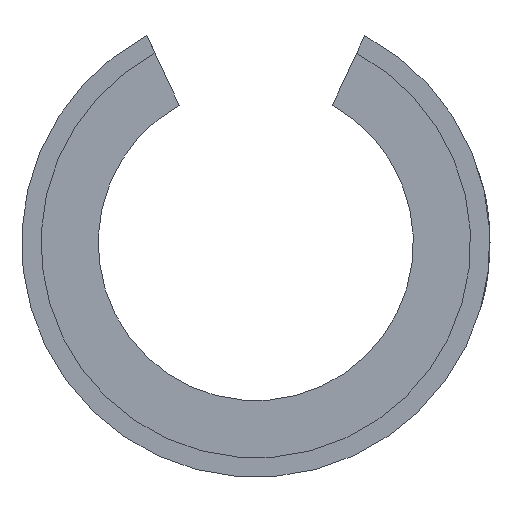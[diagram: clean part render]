
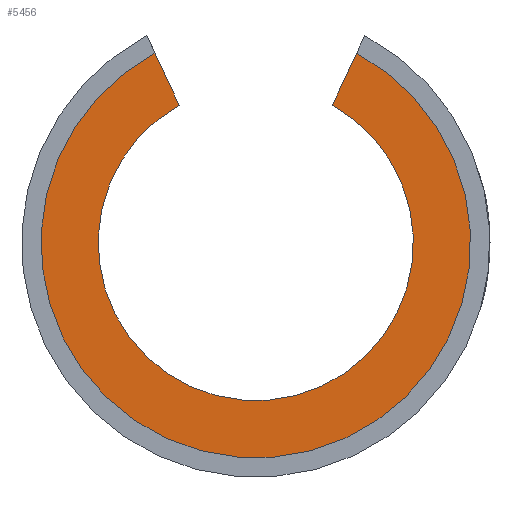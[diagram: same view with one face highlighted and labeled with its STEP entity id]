
A CAD part, left-side view. The second image highlights one B-rep face of the part: STEP entity #5456.
In plain terms, the highlighted planar face has unit normal (-1, 0, 0).
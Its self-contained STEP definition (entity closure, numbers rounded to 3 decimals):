
#130=PLANE('',#5879);
#360=CIRCLE('',#5854,17.5);
#373=CIRCLE('',#5880,23.852);
#561=LINE('',#8647,#1024);
#562=LINE('',#8649,#1025);
#1024=VECTOR('',#6474,1000.);
#1025=VECTOR('',#6475,1000.);
#1673=ORIENTED_EDGE('',*,*,#3318,.T.);
#1674=ORIENTED_EDGE('',*,*,#3279,.T.);
#1675=ORIENTED_EDGE('',*,*,#3319,.T.);
#1676=ORIENTED_EDGE('',*,*,#3320,.F.);
#3279=EDGE_CURVE('',#4108,#4109,#360,.F.);
#3318=EDGE_CURVE('',#4134,#4108,#561,.T.);
#3319=EDGE_CURVE('',#4109,#4135,#562,.T.);
#3320=EDGE_CURVE('',#4134,#4135,#373,.T.);
#4108=VERTEX_POINT('',#8570);
#4109=VERTEX_POINT('',#8571);
#4134=VERTEX_POINT('',#8648);
#4135=VERTEX_POINT('',#8650);
#4678=EDGE_LOOP('',(#1673,#1674,#1675,#1676));
#5058=FACE_BOUND('',#4678,.T.);
#5456=ADVANCED_FACE('',(#5058),#130,.T.);
#5854=AXIS2_PLACEMENT_3D('',#8569,#6396,#6397);
#5879=AXIS2_PLACEMENT_3D('',#8646,#6472,#6473);
#5880=AXIS2_PLACEMENT_3D('',#8651,#6476,#6477);
#6396=DIRECTION('',(-1.,0.,0.));
#6397=DIRECTION('',(0.,0.,1.));
#6472=DIRECTION('',(-1.,0.,0.));
#6473=DIRECTION('',(0.,0.,-1.));
#6474=DIRECTION('',(0.,0.423,-0.906));
#6475=DIRECTION('',(0.,0.423,0.906));
#6476=DIRECTION('',(1.,0.,0.));
#6477=DIRECTION('',(0.,0.,-1.));
#8569=CARTESIAN_POINT('',(-33.,0.,0.));
#8570=CARTESIAN_POINT('',(-33.,-8.5,15.297));
#8571=CARTESIAN_POINT('',(-33.,8.5,15.297));
#8646=CARTESIAN_POINT('',(-33.,0.,0.));
#8647=CARTESIAN_POINT('',(-33.,-8.5,15.297));
#8648=CARTESIAN_POINT('',(-33.,-11.189,21.064));
#8649=CARTESIAN_POINT('',(-33.,8.5,15.297));
#8650=CARTESIAN_POINT('',(-33.,11.189,21.064));
#8651=CARTESIAN_POINT('',(-33.,0.,0.));
